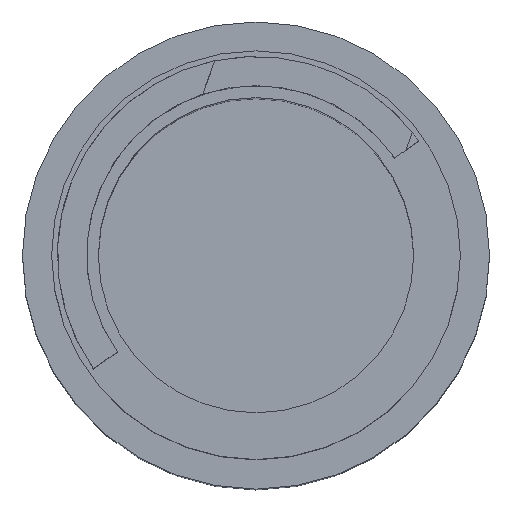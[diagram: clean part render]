
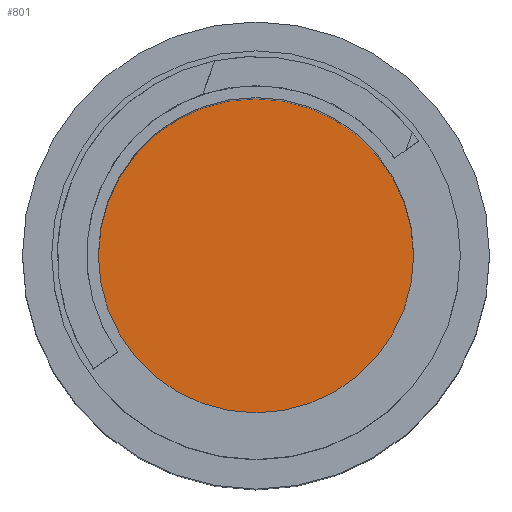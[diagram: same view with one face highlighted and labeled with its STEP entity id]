
A CAD part, top view. The second image highlights one B-rep face of the part: STEP entity #801.
In plain terms, the highlighted planar face has unit normal (0, 0, 1).
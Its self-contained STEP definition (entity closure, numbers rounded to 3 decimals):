
#223 = CYLINDRICAL_SURFACE('',#224,0.675);
#224 = AXIS2_PLACEMENT_3D('',#225,#226,#227);
#225 = CARTESIAN_POINT('',(0.,0.,3.05));
#226 = DIRECTION('',(0.,0.,1.));
#227 = DIRECTION('',(1.,0.,0.));
#356 = VERTEX_POINT('',#357);
#357 = CARTESIAN_POINT('',(0.675,0.,0.15));
#378 = EDGE_CURVE('',#356,#356,#379,.T.);
#379 = SURFACE_CURVE('',#380,(#385,#392),.PCURVE_S1.);
#380 = CIRCLE('',#381,0.675);
#381 = AXIS2_PLACEMENT_3D('',#382,#383,#384);
#382 = CARTESIAN_POINT('',(0.,0.,0.15));
#383 = DIRECTION('',(0.,0.,1.));
#384 = DIRECTION('',(1.,0.,0.));
#385 = PCURVE('',#223,#386);
#386 = DEFINITIONAL_REPRESENTATION('',(#387),#391);
#387 = LINE('',#388,#389);
#388 = CARTESIAN_POINT('',(0.,-2.9));
#389 = VECTOR('',#390,1.);
#390 = DIRECTION('',(1.,0.));
#391 = ( GEOMETRIC_REPRESENTATION_CONTEXT(2) 
PARAMETRIC_REPRESENTATION_CONTEXT() REPRESENTATION_CONTEXT('2D SPACE',''
  ) );
#392 = PCURVE('',#393,#398);
#393 = PLANE('',#394);
#394 = AXIS2_PLACEMENT_3D('',#395,#396,#397);
#395 = CARTESIAN_POINT('',(0.,0.,0.15));
#396 = DIRECTION('',(0.,0.,1.));
#397 = DIRECTION('',(1.,0.,-0.));
#398 = DEFINITIONAL_REPRESENTATION('',(#399),#403);
#399 = CIRCLE('',#400,0.675);
#400 = AXIS2_PLACEMENT_2D('',#401,#402);
#401 = CARTESIAN_POINT('',(0.,0.));
#402 = DIRECTION('',(1.,0.));
#403 = ( GEOMETRIC_REPRESENTATION_CONTEXT(2) 
PARAMETRIC_REPRESENTATION_CONTEXT() REPRESENTATION_CONTEXT('2D SPACE',''
  ) );
#801 = ADVANCED_FACE('',(#802),#393,.T.);
#802 = FACE_BOUND('',#803,.T.);
#803 = EDGE_LOOP('',(#804));
#804 = ORIENTED_EDGE('',*,*,#378,.T.);
